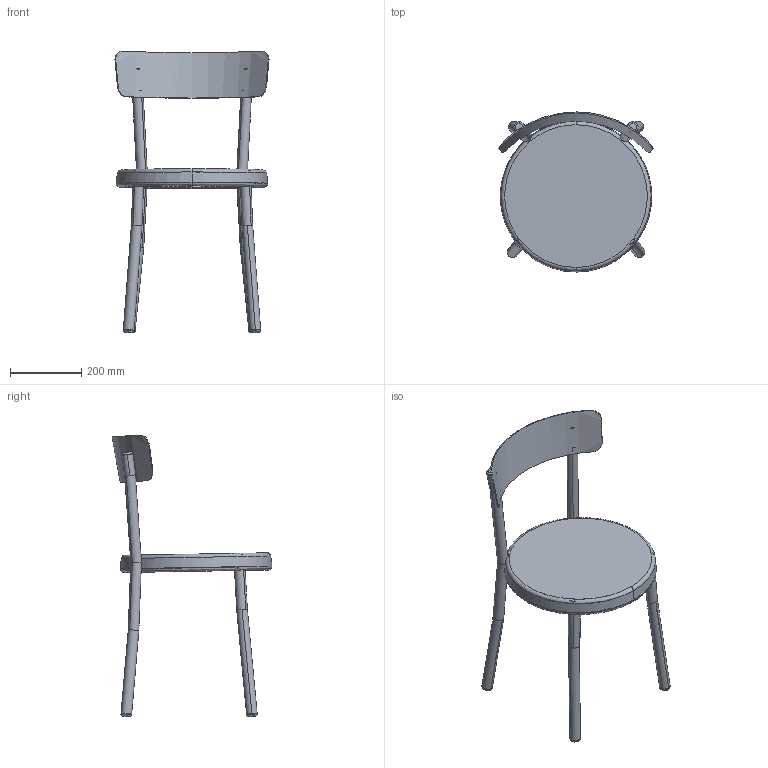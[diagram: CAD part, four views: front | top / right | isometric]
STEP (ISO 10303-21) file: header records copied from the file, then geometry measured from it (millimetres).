
FILE_DESCRIPTION(/* description */ (''),/* implementation_level */ '2;1');
FILE_NAME(/* name */ 'FRAMA_Tasca-Chair-3D',/* time_stamp */ '2025-10-23T13:46:03+02:00',/* author */ (''),/* organization */ (''),/* preprocessor_version */ 'ST-DEVELOPER v16.5',/* originating_system */ 'Rhino 7.38',/* authorisation */ '');
FILE_SCHEMA (('CONFIG_CONTROL_DESIGN'));
Length unit declared in the file: millimetre
Products named in the file (1): Document
Bounding box: 433.89 x 450.28 x 793.21 mm (x, y, z)
Volume: 1173711.3 mm3; surface area: 1029826.7 mm2
Topology: 14 solids, 14 shells, 201 faces, 471 edges, 304 vertices
Faces by surface type: bspline 79, plane 62, cylinder 60
Entity records: 11189 total; most frequent: CARTESIAN_POINT 8144, ORIENTED_EDGE 942, EDGE_CURVE 471, VERTEX_POINT 304, EDGE_LOOP 219, B_SPLINE_CURVE_WITH_KNOTS 205, ADVANCED_FACE 201, FACE_OUTER_BOUND 201
